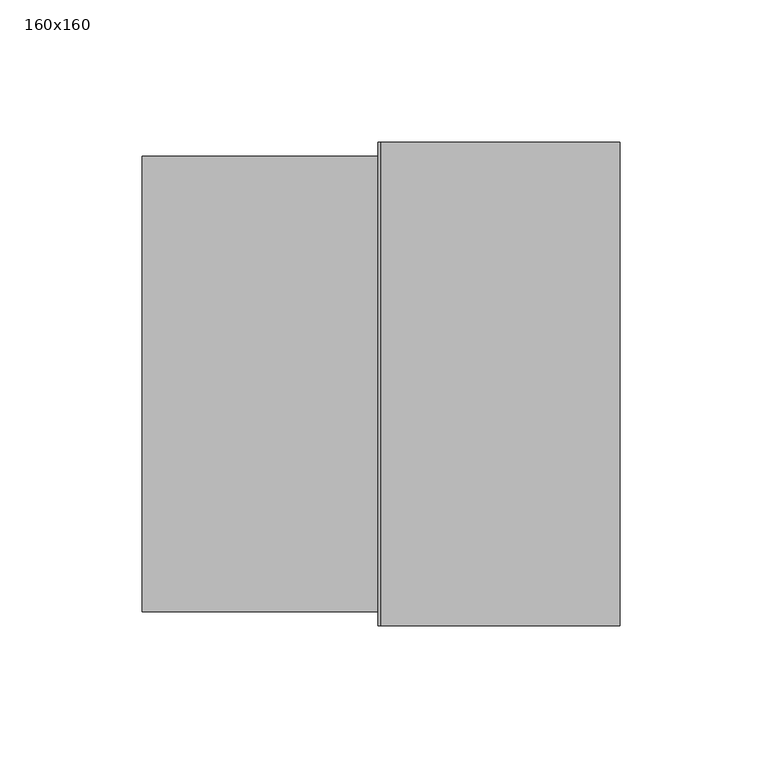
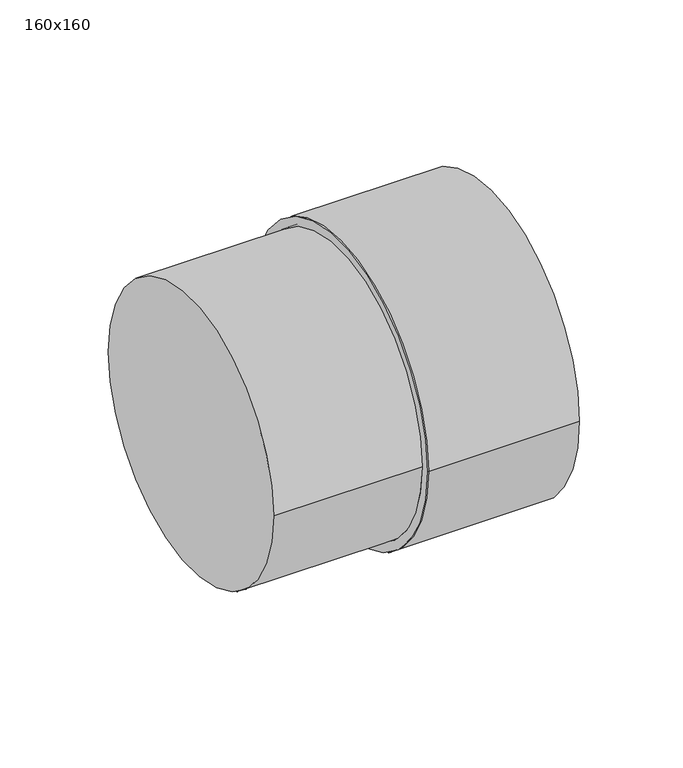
"""IFC4 building model written with IfcOpenShell, lengths in millimetres: pipe fitting geometry, Pipelife - Pragma OD - Złączka do kielicha PVC : 160x160."""

from ifc_helpers import new_model, si_unit, frame, origin, place, context, project, spatial, polyline, circle_curve, source, transform, mapped, element, save
from ifc_brep_helpers import plane_surface, cylinder_surface, revolved_surface, advanced_brep


def pipe_fitting_160x160_6d9ae933(model_context):
    return source(origin(), model_context, "Body", "AdvancedBrep", [
        advanced_brep(
        [(84.0, -85.0, 0.0), (84.0, 85.0, 0.0), (84.0, -80.5, 0.0), (84.0, 80.5, 0.0), (0.0, 85.0, 0.0), (0.0, -85.0, 0.0), (0.0, -80.5, 0.0), (0.0, 80.5, 0.0), (-84.0, -80.0, 0.0), (-84.0, 80.0, 0.0), (-1.0, -80.0, 0.0), (-1.0, 80.0, 0.0), (-1.0, -85.0, 0.0), (-1.0, 85.0, 0.0)],
        [
            (0, 1, circle_curve(frame((84.0, 0.0, 0.0), z_axis=(1.0, 0.0, 0.0), x_axis=(0.0, 1.0, 0.0)), 85.0)),
            (1, 0, circle_curve(frame((84.0, 0.0, 0.0), z_axis=(1.0, 0.0, 0.0), x_axis=(0.0, 1.0, 0.0)), 85.0)),
            (2, 3, circle_curve(frame((84.0, 0.0, 0.0), z_axis=(-1.0, 0.0, 0.0), x_axis=(0.0, 1.0, 0.0)), 80.5)),
            (3, 2, circle_curve(frame((84.0, 0.0, 0.0), z_axis=(-1.0, 0.0, 0.0), x_axis=(0.0, 1.0, 0.0)), 80.5)),
            (1, 4),
            (4, 5, circle_curve(frame((0.0, 0.0, 0.0), z_axis=(1.0, 0.0, 0.0), x_axis=(0.0, 1.0, 0.0)), 85.0)),
            (5, 0),
            (5, 4, circle_curve(frame((0.0, 0.0, 0.0), z_axis=(1.0, 0.0, 0.0), x_axis=(0.0, 1.0, 0.0)), 85.0)),
            (6, 7, circle_curve(frame((0.0, 0.0, 0.0), z_axis=(1.0, 0.0, 0.0), x_axis=(0.0, 1.0, 0.0)), 80.5)),
            (7, 6, circle_curve(frame((0.0, 0.0, 0.0), z_axis=(1.0, 0.0, 0.0), x_axis=(0.0, 1.0, 0.0)), 80.5)),
            (7, 3),
            (2, 6),
            (8, 9, circle_curve(frame((-84.0, 0.0, 0.0), z_axis=(-1.0, 0.0, 0.0), x_axis=(0.0, 1.0, 0.0)), 80.0)),
            (9, 8, circle_curve(frame((-84.0, 0.0, 0.0), z_axis=(-1.0, 0.0, 0.0), x_axis=(0.0, 1.0, 0.0)), 80.0)),
            (8, 10),
            (10, 11, circle_curve(frame((-1.0, 0.0, 0.0), z_axis=(-1.0, 0.0, 0.0), x_axis=(0.0, 1.0, 0.0)), 80.0)),
            (11, 9),
            (11, 10, circle_curve(frame((-1.0, 0.0, 0.0), z_axis=(-1.0, 0.0, 0.0), x_axis=(0.0, 1.0, 0.0)), 80.0)),
            (12, 13, circle_curve(frame((-1.0, 0.0, 0.0), z_axis=(-1.0, 0.0, 0.0), x_axis=(0.0, 1.0, 0.0)), 85.0)),
            (13, 12, circle_curve(frame((-1.0, 0.0, 0.0), z_axis=(-1.0, 0.0, 0.0), x_axis=(0.0, 1.0, 0.0)), 85.0)),
            (12, 5),
            (4, 13),
        ],
        [
            plane_surface(frame((84.0, 0.0, 0.0), z_axis=(1.0, 0.0, 0.0), x_axis=(0.0, 0.0, 1.0))),
            cylinder_surface(frame((0.0, 0.0, 0.0), z_axis=(-1.0, 0.0, 0.0), x_axis=(0.0, 1.0, 0.0)), 85.0),
            plane_surface(frame((0.0, 0.0, 0.0), z_axis=(1.0, 0.0, 0.0), x_axis=(0.0, 0.0, 1.0))),
            revolved_surface(polyline([(0.0, 80.5, 0.0), (84.0, 80.5, 0.0)]), (0.0, 0.0, 0.0), (-1.0, 0.0, 0.0)),
            plane_surface(frame((-84.0, 0.0, 0.0), z_axis=(-1.0, 0.0, 0.0), x_axis=(0.0, 0.0, 1.0))),
            cylinder_surface(frame((-84.0, 0.0, 0.0), z_axis=(-1.0, 0.0, 0.0), x_axis=(0.0, 1.0, 0.0)), 80.0),
            plane_surface(frame((-1.0, 0.0, 0.0), z_axis=(-1.0, 0.0, 0.0), x_axis=(0.0, 0.0, 1.0))),
            cylinder_surface(frame((-1.0, 0.0, 0.0), z_axis=(-1.0, 0.0, 0.0), x_axis=(0.0, 1.0, 0.0)), 85.0),
        ],
        [
            (0, [[1, 2], [3, 4]]),
            (1, [[-2, 5, 6, 7]]),
            (1, [[-1, -7, 8, -5]]),
            (2, [[9, 10]]),
            (3, [[-10, 11, -3, 12]]),
            (3, [[-9, -12, -4, -11]]),
            (4, [[13, 14]]),
            (5, [[-13, 15, 16, 17]]),
            (5, [[-14, -17, 18, -15]]),
            (6, [[19, 20], [-16, -18]]),
            (7, [[-19, 21, -6, 22]]),
            (7, [[-20, -22, -8, -21]]),
        ],
    ),
    ])


if __name__ == "__main__":
    model = new_model("IFC4")
    model_context = context("Model", 3, world=origin())
    ifc_project = project(units=[si_unit("LENGTHUNIT", "METRE", prefix="MILLI")], contexts=[model_context])
    site = spatial("IfcSite", under=ifc_project)
    building = spatial("IfcBuilding", under=site)
    placement = place(None, origin())
    pipe_fitting_160x160_shape = pipe_fitting_160x160_6d9ae933(model_context)
    element("IfcPipeFitting", 1, ObjectType="Pipelife - Pragma OD - Złączka do kielicha PVC : 160x160", at=placement, inside=building, context=model_context, shape_type="MappedRepresentation", body=[
        mapped(pipe_fitting_160x160_shape, transform((0.0, 0.0, 0.0), x_axis=(1.0, 0.0, 0.0), y_axis=(0.0, 1.0, 0.0), z_axis=(0.0, 0.0, 1.0))),
    ])
    save(model, "model.ifc")
